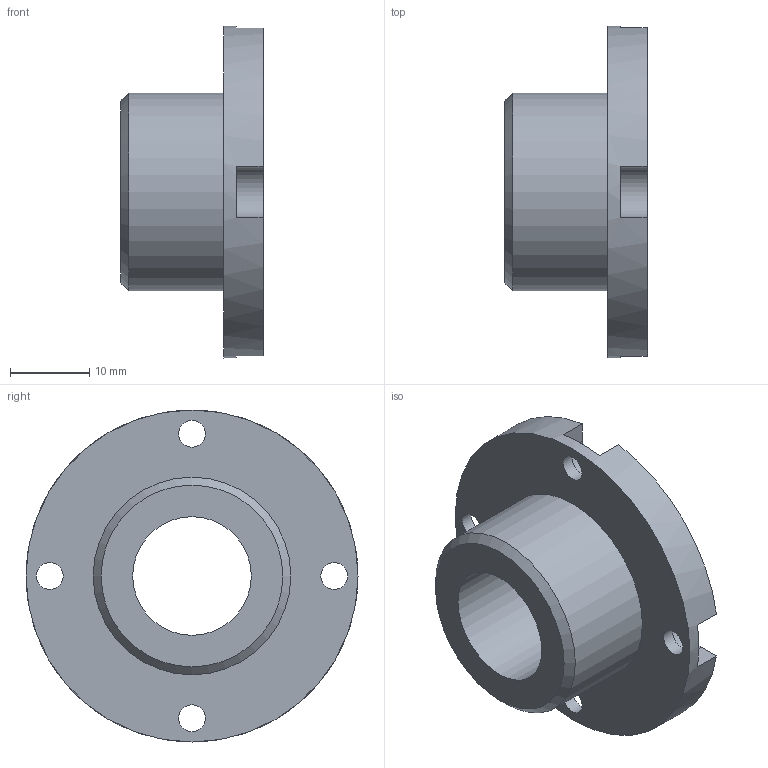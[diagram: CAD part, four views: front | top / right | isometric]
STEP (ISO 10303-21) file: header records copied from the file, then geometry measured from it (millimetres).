
FILE_DESCRIPTION(/* description */ (''),/* implementation_level */ '2;1');
FILE_NAME(/* name */ '',/* time_stamp */ '2026-08-27T17:03:11+09:00',/* author */ ('jhkim'),/* organization */ (''),/* preprocessor_version */ 'ST-DEVELOPER v20.1',/* originating_system */ 'Autodesk Inventor 2027',/* authorisation */ '');
FILE_SCHEMA (('AUTOMOTIVE_DESIGN { 1 0 10303 214 3 1 1 }'));
Length unit declared in the file: millimetre
Products named in the file (1): 커버
Bounding box: 18 x 42 x 42 mm (x, y, z)
Volume: 9024.6 mm3; surface area: 5043.7 mm2
Topology: 1 solids, 1 shells, 31 faces, 80 edges, 53 vertices
Faces by surface type: plane 16, cylinder 12, cone 3
Full cylindrical faces by diameter (mm): 3.4 x4, 15 x1, 21 x1, 25 x1, 42 x1
Entity records: 1026 total; most frequent: DIRECTION 181, CARTESIAN_POINT 165, ORIENTED_EDGE 160, EDGE_CURVE 80, AXIS2_PLACEMENT_3D 69, VERTEX_POINT 53, EDGE_LOOP 43, LINE 43
